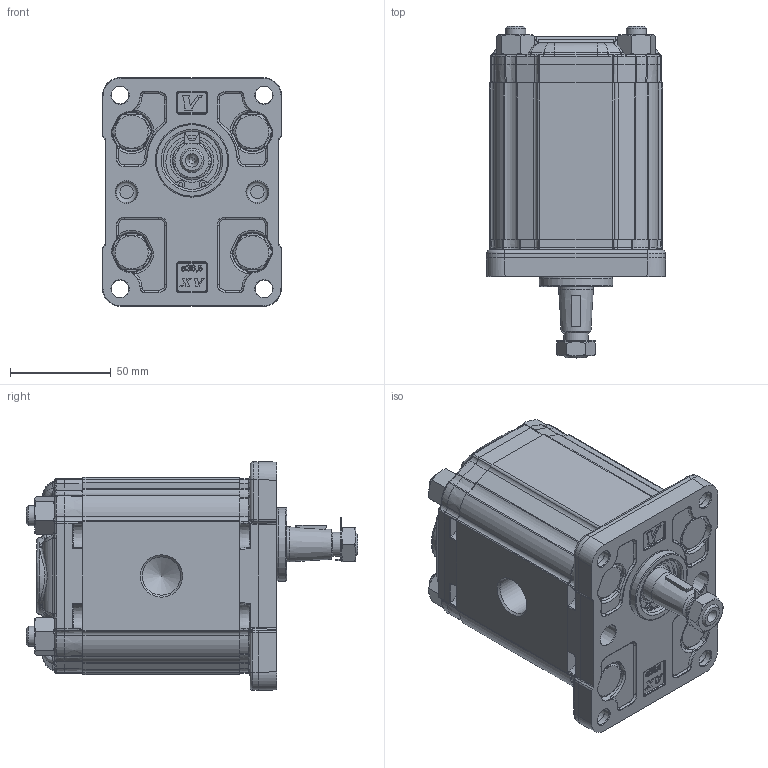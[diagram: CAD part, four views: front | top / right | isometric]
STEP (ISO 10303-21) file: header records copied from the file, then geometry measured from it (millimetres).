
FILE_DESCRIPTION(/* description */ ('Unknown'),/* implementation_level */ '2;1');
FILE_NAME(/* name */ 'X2P5501ECBA',/* time_stamp */ '2026-06-03T17:40:32+02:00',/* author */ ('Unknown'),/* organization */ ('Unknown'),/* preprocessor_version */ 'ST-DEVELOPER v16.7',/* originating_system */ 'Solid Edge',/* authorisation */ 'Unknown');
FILE_SCHEMA (('AUTOMOTIVE_DESIGN {1 0 10303 214 3 1 1}'));
Products named in the file (5): X2P5501ECBA; X2P01; 2E; X2CBH78; XP201-A
Assembly tree (4 placements, depth 2):
  X2P5501ECBA
    X2P01
    2E
    X2CBH78
    XP201-A
Bounding box: 89 x 164.95 x 113.7 mm (x, y, z)
Volume: 864361.9 mm3; surface area: 124943.4 mm2
Topology: 4 solids, 5 shells, 2429 faces, 5953 edges, 3613 vertices
Faces by surface type: cylinder 630, bspline 623, plane 593, torus 292, cone 260, sphere 31
Full cylindrical faces by diameter (mm): 2 x2, 8.796 x4, 8.798 x4, 10 x12, 10.5 x16, 12 x2, 12.5 x1, 16 x4, 17.42 x1, 17.48 x2, 18.724 x1, 19 x1, 20.595 x1, 21.741 x1, 24.117 x1, 25 x1, 25.834 x1, 28.56 x1, 28.57 x1, 28.8 x1, 30.5 x1, 36.5 x1
Entity records: 110600 total; most frequent: CARTESIAN_POINT 42821, ORIENTED_EDGE 11198, DIRECTION 9011, EDGE_CURVE 5599, AXIS2_PLACEMENT_3D 3579, VERTEX_POINT 3508, FACE_BOUND 2795, EDGE_LOOP 2791
